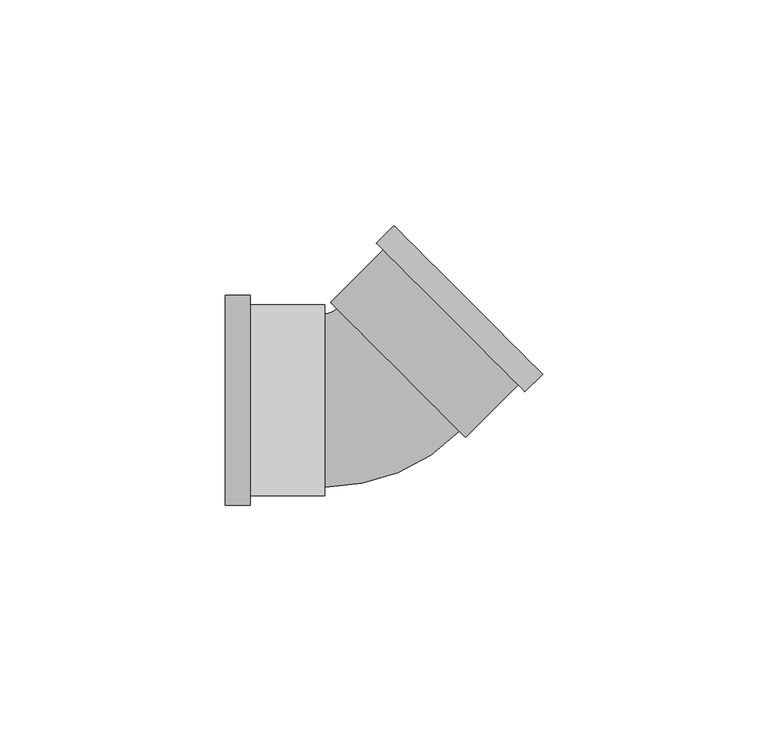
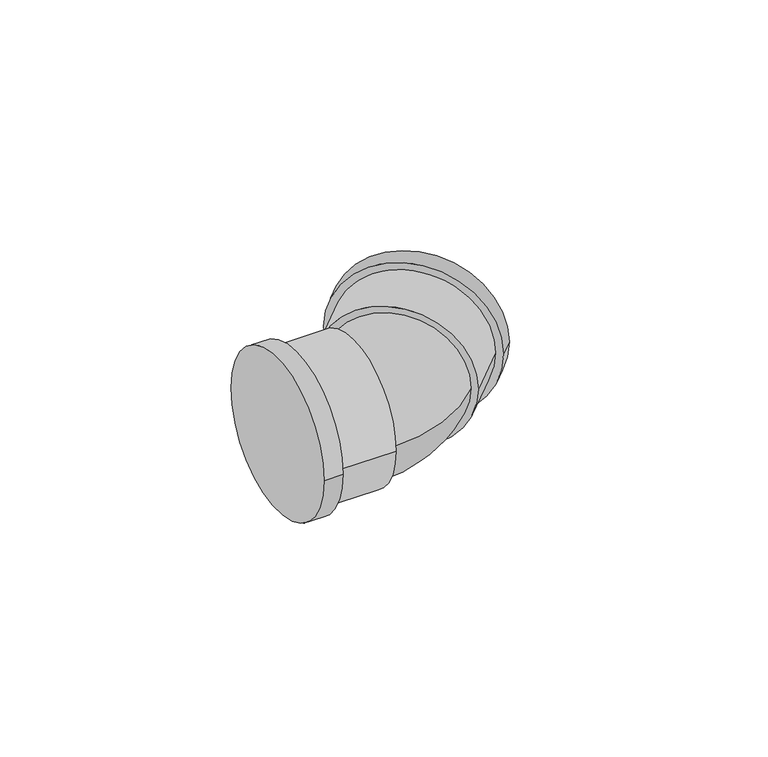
"""IFC4 building model written with IfcOpenShell, lengths in millimetres: pipe fitting geometry, Cotovelo - PVC - CW : Padrão."""

from ifc_helpers import new_model, si_unit, point, frame, origin, place, context, project, spatial, circle_curve, ellipse_curve, trimmed, source, transform, mapped, element, save
from ifc_brep_helpers import plane_surface, cylinder_surface, revolved_surface, advanced_brep


def pipe_fitting_094f8e04(model_context):
    return source(origin(), model_context, "Body", "AdvancedBrep", [
        advanced_brep(
        [(-31.5269119, -23.2925, 0.0), (-31.5269119, 23.2925, 0.0), (-26.0269119, -23.2925, 0.0), (-26.0269119, 23.2925, 0.0), (-26.0269119, -21.175, 0.0), (-26.0269119, 21.175, 0.0), (-9.5269119, 21.175, 0.0), (-9.5269119, -21.175, 0.0), (-9.5269119, -19.25, 0.0), (-9.5269119, 19.25, 0.0), (-6.8752615, 20.3483496, 0.0), (20.3483496, -6.8752615, 0.0), (21.7095301, -8.2364421, 0.0), (-8.2364421, 21.7095301, 0.0), (5.8226085, 38.7631779, 0.0), (38.7631779, 5.8226085, 0.0), (33.376792, 3.4308198, 0.0), (3.4308198, 33.376792, 0.0), (1.9335212, 34.8740906, 0.0), (34.8740906, 1.9335212, 0.0)],
        [
            (0, 1, circle_curve(frame((-31.5269119, 0.0, 0.0), z_axis=(-1.0, 0.0, 0.0), x_axis=(0.0, 1.0, 0.0)), 23.2925)),
            (1, 0, circle_curve(frame((-31.5269119, 0.0, 0.0), z_axis=(-1.0, 0.0, 0.0), x_axis=(0.0, 1.0, 0.0)), 23.2925)),
            (2, 3, circle_curve(frame((-26.0269119, 0.0, 0.0), z_axis=(1.0, 0.0, 0.0), x_axis=(0.0, 1.0, 0.0)), 23.2925)),
            (3, 2, circle_curve(frame((-26.0269119, 0.0, 0.0), z_axis=(1.0, 0.0, 0.0), x_axis=(0.0, 1.0, 0.0)), 23.2925)),
            (4, 5, circle_curve(frame((-26.0269119, 0.0, 0.0), z_axis=(-1.0, 0.0, 0.0), x_axis=(0.0, -1.0, 0.0)), 21.175)),
            (5, 4, circle_curve(frame((-26.0269119, 0.0, 0.0), z_axis=(-1.0, 0.0, 0.0), x_axis=(0.0, -1.0, 0.0)), 21.175)),
            (0, 2),
            (3, 1),
            (6, 7, circle_curve(frame((-9.5269119, 0.0, 0.0), z_axis=(1.0, 0.0, 0.0), x_axis=(0.0, -1.0, 0.0)), 21.175)),
            (7, 6, circle_curve(frame((-9.5269119, 0.0, 0.0), z_axis=(1.0, 0.0, 0.0), x_axis=(0.0, -1.0, 0.0)), 21.175)),
            (8, 9, circle_curve(frame((-9.5269119, 0.0, 0.0), z_axis=(-1.0, 0.0, 0.0), x_axis=(0.0, 1.0, 0.0)), 19.25)),
            (9, 8, circle_curve(frame((-9.5269119, 0.0, 0.0), z_axis=(-1.0, 0.0, 0.0), x_axis=(0.0, 1.0, 0.0)), 19.25)),
            (6, 5),
            (4, 7),
            (10, 9, circle_curve(frame((-9.5269119, 23.0, 0.0), z_axis=(0.0, 0.0, -1.0), x_axis=(0.0, -1.0, 0.0)), 3.75)),
            (8, 11, circle_curve(frame((-9.5269119, 23.0, 0.0), z_axis=(0.0, 0.0, 1.0), x_axis=(0.0, -1.0, 0.0)), 42.25)),
            (11, 10, circle_curve(frame((6.736544, 6.736544, 0.0), z_axis=(-0.707106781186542, -0.707106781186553, 0.0), x_axis=(-0.707106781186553, 0.707106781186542, 0.0)), 19.25)),
            (10, 11, circle_curve(frame((6.736544, 6.736544, 0.0), z_axis=(-0.707106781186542, -0.707106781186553, 0.0), x_axis=(-0.707106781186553, 0.707106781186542, 0.0)), 19.25)),
            (12, 13, circle_curve(frame((6.736544, 6.736544, 0.0), z_axis=(-0.7071067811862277, -0.7071067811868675, 0.0), x_axis=(-0.7071067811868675, 0.7071067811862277, 0.0)), 21.175)),
            (13, 12, circle_curve(frame((6.736544, 6.736544, 0.0), z_axis=(-0.7071067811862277, -0.7071067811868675, 0.0), x_axis=(-0.7071067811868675, 0.7071067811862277, 0.0)), 21.175)),
            (14, 15, circle_curve(frame((22.2928932, 22.2928932, 0.0), z_axis=(0.70710678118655, 0.707106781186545, 0.0), x_axis=(0.707106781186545, -0.70710678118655, 0.0)), 23.2925)),
            (15, 14, circle_curve(frame((22.2928932, 22.2928932, 0.0), z_axis=(0.70710678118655, 0.707106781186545, 0.0), x_axis=(0.707106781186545, -0.70710678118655, 0.0)), 23.2925)),
            (12, 16),
            (16, 17, circle_curve(frame((18.4038059, 18.4038059, 0.0), z_axis=(-0.7071067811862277, -0.7071067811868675, 0.0), x_axis=(-0.7071067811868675, 0.7071067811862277, 0.0)), 21.175)),
            (17, 13),
            (17, 16, circle_curve(frame((18.4038059, 18.4038059, 0.0), z_axis=(-0.7071067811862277, -0.7071067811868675, 0.0), x_axis=(-0.7071067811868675, 0.7071067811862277, 0.0)), 21.175)),
            (18, 19, circle_curve(frame((18.4038059, 18.4038059, 0.0), z_axis=(-0.70710678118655, -0.707106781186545, 0.0), x_axis=(0.707106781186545, -0.70710678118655, 0.0)), 23.2925)),
            (19, 18, circle_curve(frame((18.4038059, 18.4038059, 0.0), z_axis=(-0.70710678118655, -0.707106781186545, 0.0), x_axis=(0.707106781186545, -0.70710678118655, 0.0)), 23.2925)),
            (14, 18),
            (19, 15),
        ],
        [
            plane_surface(frame((-31.5269119, 0.0, 0.0), z_axis=(-1.0, 0.0, 0.0), x_axis=(0.0, 0.0, 1.0))),
            plane_surface(frame((-26.0269119, 0.0, 0.0), z_axis=(1.0, 0.0, 0.0), x_axis=(0.0, 0.0, 1.0))),
            cylinder_surface(frame((-31.5269119, 0.0, 0.0), z_axis=(-1.0, 0.0, 0.0), x_axis=(0.0, 1.0, 0.0)), 23.2925),
            plane_surface(frame((-9.5269119, 0.0, 0.0), z_axis=(1.0, 0.0, 0.0), x_axis=(0.0, 0.0, 1.0))),
            cylinder_surface(frame((-9.5269119, 0.0, 0.0), z_axis=(1.0, 0.0, 0.0), x_axis=(0.0, -1.0, 0.0)), 21.175),
            revolved_surface(trimmed(ellipse_curve(frame((-9.5269119, 0.0, 0.0), z_axis=(-1.0, 0.0, 0.0), x_axis=(0.0, 1.0, 0.0)), 19.25, 19.25), [point((-9.5269119, -19.25, 0.0))], [point((-9.5269119, 19.25, 0.0))], True, "CARTESIAN"), (-9.5269119, 23.0, 0.0), (0.0, 0.0, 1.0)),
            revolved_surface(trimmed(ellipse_curve(frame((-9.5269119, 0.0, 0.0), z_axis=(-1.0, 0.0, 0.0), x_axis=(0.0, 1.0, 0.0)), 19.25, 19.25), [point((-9.5269119, 19.25, 0.0))], [point((-9.5269119, -19.25, 0.0))], True, "CARTESIAN"), (-9.5269119, 23.0, 0.0), (0.0, 0.0, 1.0)),
            plane_surface(frame((6.736544, 6.736544, 0.0), z_axis=(-0.7071067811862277, -0.7071067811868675, 0.0), x_axis=(0.0, 0.0, 1.0))),
            plane_surface(frame((22.2928932, 22.2928932, 0.0), z_axis=(0.7071067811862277, 0.7071067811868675, 0.0), x_axis=(0.0, 0.0, 1.0))),
            cylinder_surface(frame((6.736544, 6.736544, 0.0), z_axis=(-0.7071067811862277, -0.7071067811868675, 0.0), x_axis=(-0.7071067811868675, 0.7071067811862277, 0.0)), 21.175),
            plane_surface(frame((18.4038059, 18.4038059, 0.0), z_axis=(-0.70710678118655, -0.707106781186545, 0.0), x_axis=(0.0, 0.0, 1.0))),
            cylinder_surface(frame((22.2928932, 22.2928932, 0.0), z_axis=(0.70710678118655, 0.707106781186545, 0.0), x_axis=(0.707106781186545, -0.70710678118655, 0.0)), 23.2925),
        ],
        [
            (0, [[1, 2]]),
            (1, [[3, 4], [5, 6]]),
            (2, [[-1, 7, -4, 8]]),
            (2, [[-2, -8, -3, -7]]),
            (3, [[9, 10], [11, 12]]),
            (4, [[-9, 13, -5, 14]]),
            (4, [[-10, -14, -6, -13]]),
            (5, [[15, -11, 16, 17]]),
            (6, [[-15, 18, -16, -12]]),
            (7, [[19, 20], [-17, -18]]),
            (8, [[21, 22]]),
            (9, [[-19, 23, 24, 25]]),
            (9, [[-20, -25, 26, -23]]),
            (10, [[27, 28], [-24, -26]]),
            (11, [[-21, 29, -28, 30]]),
            (11, [[-22, -30, -27, -29]]),
        ],
    ),
    ])


if __name__ == "__main__":
    model = new_model("IFC4")
    model_context = context("Model", 3, world=origin())
    ifc_project = project(units=[si_unit("LENGTHUNIT", "METRE", prefix="MILLI")], contexts=[model_context])
    site = spatial("IfcSite", under=ifc_project)
    building = spatial("IfcBuilding", under=site)
    placement = place(None, origin())
    pipe_fitting_shape = pipe_fitting_094f8e04(model_context)
    element("IfcPipeFitting", 1, ObjectType="Cotovelo - PVC - CW : Padrão", at=placement, inside=building, context=model_context, shape_type="MappedRepresentation", body=[
        mapped(pipe_fitting_shape, transform((0.0, 0.0, 0.0), x_axis=(1.0, 0.0, 0.0), y_axis=(0.0, 1.0, 0.0), z_axis=(0.0, 0.0, 1.0))),
    ])
    save(model, "model.ifc")
